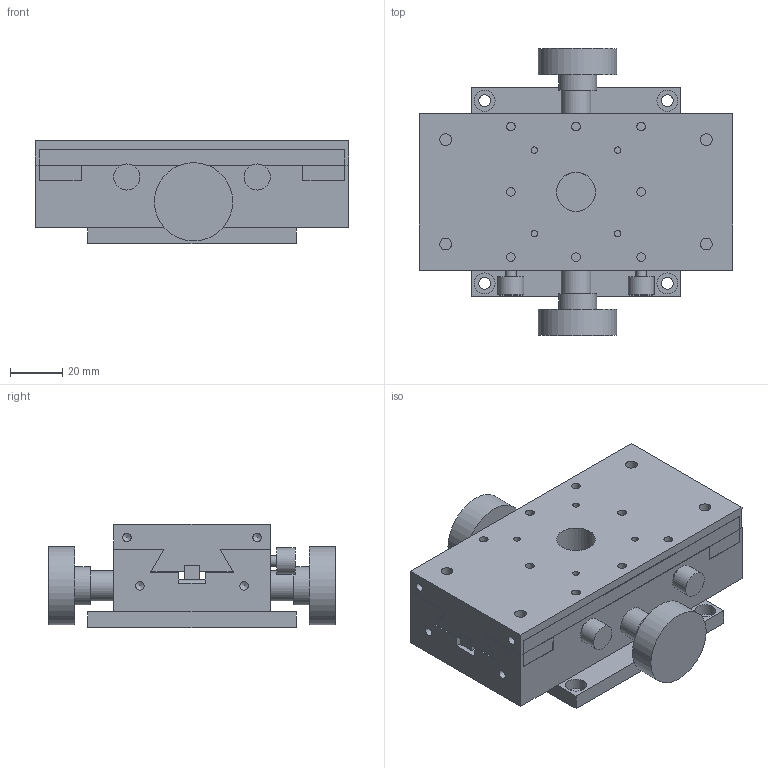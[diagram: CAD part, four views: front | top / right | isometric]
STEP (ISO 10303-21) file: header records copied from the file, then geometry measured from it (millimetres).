
FILE_DESCRIPTION( ( 'STEP AP214' ), '1' );
FILE_NAME( 'C:/Project/B06-1W.stp', '2007-05-08T10:31:19', ( ' ' ), ( ' ' ), 'XStep 1.0', ' ', ' ' );
FILE_SCHEMA( ( 'automotive_design' ) );
Length unit declared in the file: millimetre
Products named in the file (3): 1; 2; 3
Bounding box: 120 x 110 x 39.5 mm (x, y, z)
Volume: 287303.1 mm3; surface area: 69385.5 mm2
Topology: 3 solids, 3 shells, 147 faces, 391 edges, 269 vertices
Faces by surface type: plane 87, cylinder 52, cone 8
Full cylindrical faces by diameter (mm): 2.5 x4, 3.3 x16, 4 x2, 4.5 x9, 7 x3, 8 x8, 10 x2, 11.5 x2, 14.6 x2, 15 x1, 30 x2
Entity records: 5348 total; most frequent: CARTESIAN_POINT 804, DIRECTION 684, ORIENTED_EDGE 564, EDGE_CURVE 282, EDGE_LOOP 274, AXIS2_PLACEMENT_3D 260, VERTEX_POINT 228, FACE_OUTER_BOUND 198
